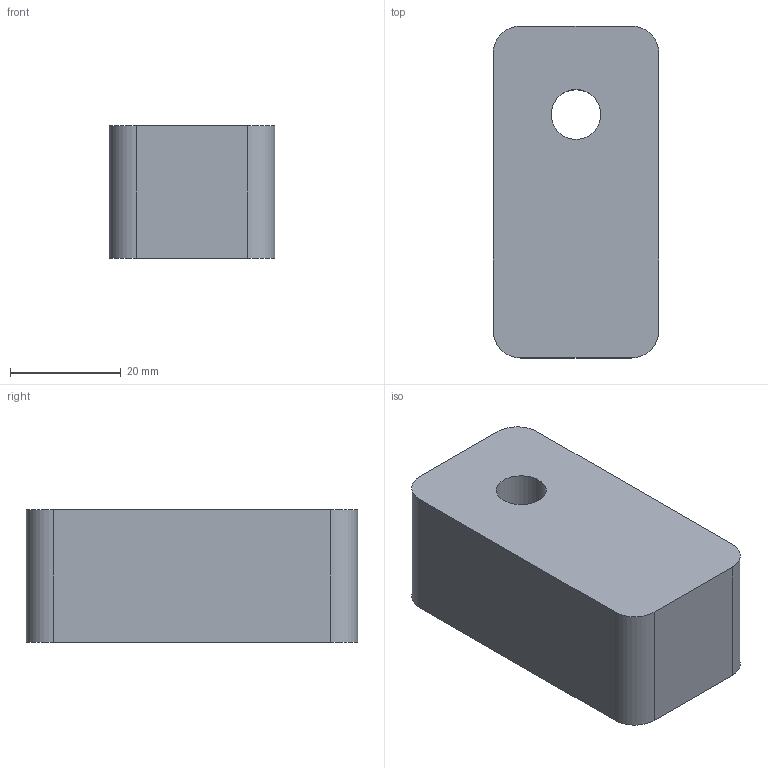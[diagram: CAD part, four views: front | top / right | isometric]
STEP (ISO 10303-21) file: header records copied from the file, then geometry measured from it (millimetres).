
FILE_DESCRIPTION (( 'STEP AP203' ), '1' );
FILE_NAME ('Fixation_Porte.STEP', '2026-06-24T07:29:49', ( '' ), ( '' ), 'SwSTEP 2.0', 'SolidWorks 2024', '' );
FILE_SCHEMA (( 'CONFIG_CONTROL_DESIGN' ));
Length unit declared in the file: millimetre
Products named in the file (1): Fixation_Porte
Bounding box: 30 x 60 x 24 mm (x, y, z)
Volume: 41158.1 mm3; surface area: 8222.4 mm2
Topology: 1 solids, 1 shells, 11 faces, 27 edges, 18 vertices
Faces by surface type: plane 6, cylinder 5
Full cylindrical faces by diameter (mm): 9 x1
Entity records: 405 total; most frequent: DIRECTION 60, CARTESIAN_POINT 56, ORIENTED_EDGE 52, EDGE_CURVE 26, AXIS2_PLACEMENT_3D 22, VERTEX_POINT 18, VECTOR 16, LINE 16
